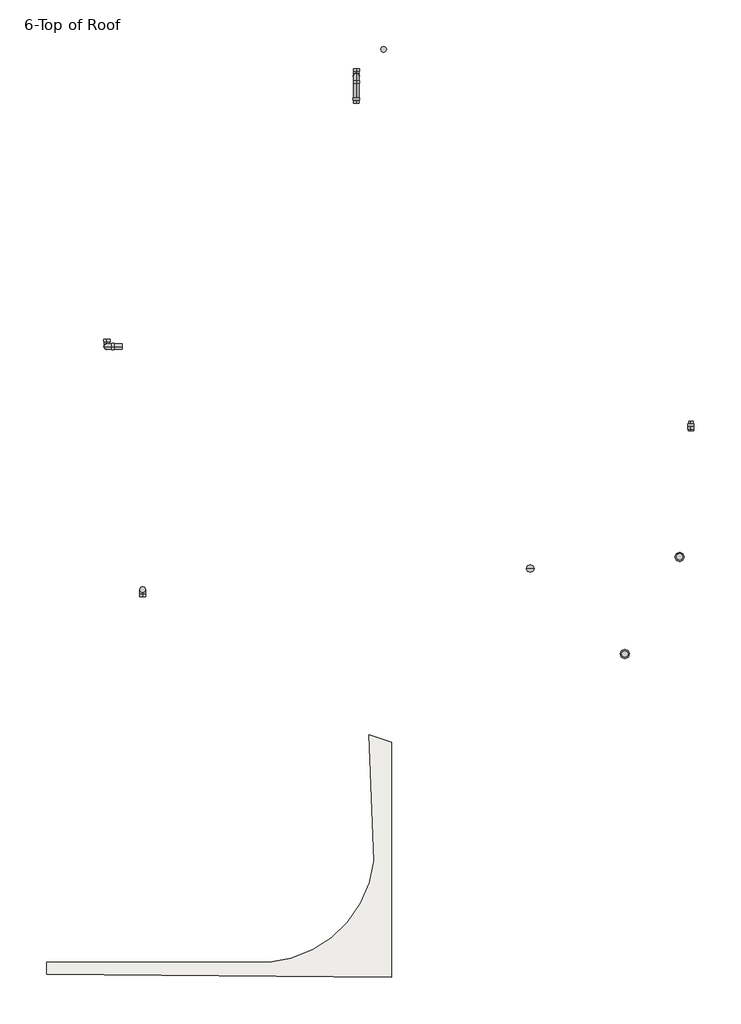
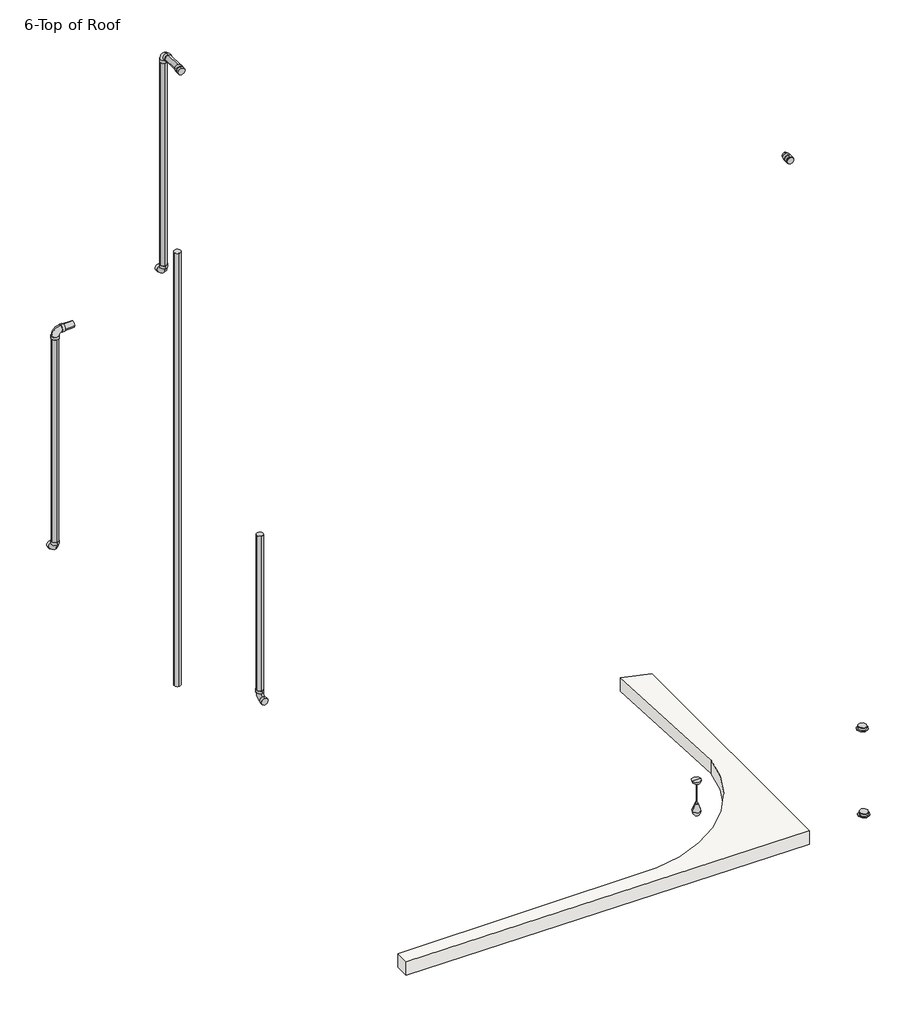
# One storey, incomplete: 8 pipe segments, 7 pipe fittings, 3 light fixtures, 1 roof.
"""IFC4 building model written with IfcOpenShell, lengths in millimetres."""

from ifc_helpers import new_model, si_unit, point, frame, frame_2d, origin, place, context, project, spatial, polyline, circle_curve, trimmed, segment, composite_curve, outline, extrude, transform, mapped, element, save
from components import m_pendant_lamp_art_glass_led_standard_2036dae1, m_recessed_lamp_round_led_e6f06c98, m_bend_pvc_sch_40_dwv_standard_a4b99d37, m_bend_pvc_sch_40_dwv_standard_db402317, m_reducer_pvc_sch_40_dwv_standard_d3fc8f65, m_reducer_pvc_sch_40_dwv_standard_4f19a4ed

model = new_model("IFC4")

# Units and contexts
model_context = context("Model", 3, world=origin())
ifc_project = project(units=[si_unit("LENGTHUNIT", "METRE", prefix="MILLI")], contexts=[model_context])

# Site, building, storey
site = spatial("IfcSite", under=ifc_project)
building = spatial("IfcBuilding", under=site)
storey = spatial("IfcBuildingStorey", under=building, Name="6-Top of Roof", Elevation=14300.0)

# Light fixtures
placement = place(None, origin())
m_pendant_lamp_art_glass_led_standard_shape = m_pendant_lamp_art_glass_led_standard_2036dae1(model_context)
element("IfcLightFixture", 1, ObjectType="M_Pendant Lamp - Art Glass - LED : Standard", at=placement, inside=storey, context=model_context, shape_type="MappedRepresentation", body=[
    mapped(m_pendant_lamp_art_glass_led_standard_shape, transform((1633.8018139, 852.1648594, 6300.0), x_axis=(1.0, 0.0, 0.0), y_axis=(0.0, -1.0, 0.0), z_axis=(0.0, 0.0, -1.0))),
])
m_recessed_lamp_round_led_shape = m_recessed_lamp_round_led_e6f06c98(model_context)
element("IfcLightFixture", 2, ObjectType="M_Recessed Lamp - Round - LED : 100mm Trimless Downlight", at=placement, inside=storey, context=model_context, shape_type="MappedRepresentation", body=[
    mapped(m_recessed_lamp_round_led_shape, transform((3153.0341397, -522.2159647, 6100.0), x_axis=(1.0, 0.0, 0.0), y_axis=(0.0, -1.0, 0.0), z_axis=(0.0, 0.0, -1.0))),
])
element("IfcLightFixture", 3, ObjectType="M_Recessed Lamp - Round - LED : 100mm Trimless Downlight", at=placement, inside=storey, context=model_context, shape_type="MappedRepresentation", body=[
    mapped(m_recessed_lamp_round_led_shape, transform((4035.5234079, 1040.5786683, 6100.0), x_axis=(1.0, 0.0, 0.0), y_axis=(0.0, -1.0, 0.0), z_axis=(0.0, 0.0, -1.0))),
])

# Pipe fittings
m_bend_pvc_sch_40_dwv_standard_shape = m_bend_pvc_sch_40_dwv_standard_a4b99d37(model_context)
element("IfcPipeFitting", 4, ObjectType="M_Bend - PVC - Sch 40 - DWV : Standard", at=placement, inside=storey, context=model_context, shape_type="MappedRepresentation", body=[
    mapped(m_bend_pvc_sch_40_dwv_standard_shape, transform((-5186.0811058, 4422.1774215, 13100.0), x_axis=(-1.0, 0.0, 0.0), y_axis=(0.0, 0.0, -1.0), z_axis=(0.0, -1.0, 0.0))),
])
element("IfcPipeFitting", 5, ObjectType="M_Bend - PVC - Sch 40 - DWV : Standard", at=placement, inside=storey, context=model_context, shape_type="MappedRepresentation", body=[
    mapped(m_bend_pvc_sch_40_dwv_standard_shape, transform((-4608.9689366, 512.3301512, 9903.4220341), x_axis=(0.0, 0.0, -1.0), y_axis=(0.0, -1.0, 0.0), z_axis=(-1.0, 0.0, 0.0))),
])
element("IfcPipeFitting", 6, ObjectType="M_Bend - PVC - Sch 40 - DWV : Standard", at=placement, inside=storey, context=model_context, shape_type="MappedRepresentation", body=[
    mapped(m_bend_pvc_sch_40_dwv_standard_shape, transform((-5186.0805492, 4422.1773789, 9903.4212629), x_axis=(0.0, 0.0, -1.0), y_axis=(0.0, 1.0, 0.0), z_axis=(1.0, 0.0, 0.0))),
])
element("IfcPipeFitting", 7, ObjectType="M_Bend - PVC - Sch 40 - DWV : Standard", at=placement, inside=storey, context=model_context, shape_type="MappedRepresentation", body=[
    mapped(m_bend_pvc_sch_40_dwv_standard_shape, transform((-1169.7257209, 8776.6620874, 13100.0), x_axis=(0.0, 1.0, 0.0), y_axis=(0.0, 0.0, -1.0), z_axis=(-1.0, 0.0, 0.0))),
])
m_bend_pvc_sch_40_dwv_standard_2_shape = m_bend_pvc_sch_40_dwv_standard_db402317(model_context)
element("IfcPipeFitting", 8, ObjectType="M_Bend - PVC - Sch 40 - DWV : Standard", at=placement, inside=storey, context=model_context, shape_type="MappedRepresentation", body=[
    mapped(m_bend_pvc_sch_40_dwv_standard_2_shape, transform((-1169.725083, 8776.6610226, 9903.3990198), x_axis=(0.0, 0.0, -1.0), y_axis=(0.0, 1.0, 0.0), z_axis=(1.0, 0.0, 0.0))),
])
m_reducer_pvc_sch_40_dwv_standard_shape = m_reducer_pvc_sch_40_dwv_standard_d3fc8f65(model_context)
element("IfcPipeFitting", 9, ObjectType="M_Reducer - PVC - Sch 40 - DWV : Standard", at=placement, inside=storey, context=model_context, shape_type="MappedRepresentation", body=[
    mapped(m_reducer_pvc_sch_40_dwv_standard_shape, transform((4216.8403015, 3177.0487618, 13100.0), x_axis=(0.0, -1.0, 0.0), y_axis=(1.0, 0.0, 0.0), z_axis=(0.0, 0.0, 1.0))),
])
m_reducer_pvc_sch_40_dwv_standard_2_shape = m_reducer_pvc_sch_40_dwv_standard_4f19a4ed(model_context)
element("IfcPipeFitting", 10, ObjectType="M_Reducer - PVC - Sch 40 - DWV : Standard", at=placement, inside=storey, context=model_context, shape_type="MappedRepresentation", body=[
    mapped(m_reducer_pvc_sch_40_dwv_standard_2_shape, transform((-1169.7257209, 8424.5390533, 13100.0), x_axis=(0.0, -1.0, 0.0), y_axis=(1.0, 0.0, 0.0), z_axis=(0.0, 0.0, 1.0))),
])

# Pipe segments
element("IfcPipeSegment", 11, ObjectType="PVC - DWV", at=placement, inside=storey, context=model_context, shape_type="SweptSolid", body=[
    extrude(outline(composite_curve([segment(trimmed(circle_curve(frame_2d((13100.0, 4217.6818376)), 44.45), [point((13100.0, 4173.2318376))], [point((13055.55, 4217.6818376))], False, "CARTESIAN"), True, "CONTINUOUS"), segment(trimmed(circle_curve(frame_2d((13100.0, 4217.6818376)), 44.45), [point((13055.55, 4217.6818376))], [point((13100.0, 4262.1318376))], False, "CARTESIAN"), True, "CONTINUOUS"), segment(trimmed(circle_curve(frame_2d((13100.0, 4217.6818376)), 44.45), [point((13100.0, 4262.1318376))], [point((13144.45, 4217.6818376))], False, "CARTESIAN"), True, "CONTINUOUS"), segment(trimmed(circle_curve(frame_2d((13100.0, 4217.6818376)), 44.45), [point((13144.45, 4217.6818376))], [point((13100.0, 4173.2318376))], False, "CARTESIAN"), True, "CONTINUOUS")], self_intersect=False)), frame((0.0, 3071.7397044, 0.0), z_axis=(0.0, 1.0, 0.0), x_axis=(0.0, 0.0, 1.0)), (0.0, 0.0, 1.0), 19.0629636),
])
element("IfcPipeSegment", 12, ObjectType="PVC - DWV", at=placement, inside=storey, context=model_context, shape_type="SweptSolid", body=[
    extrude(outline(composite_curve([segment(trimmed(circle_curve(frame_2d((13100.0, 4216.8403015)), 37.5), [point((13100.0, 4179.3403015))], [point((13062.5, 4216.8403015))], False, "CARTESIAN"), True, "CONTINUOUS"), segment(trimmed(circle_curve(frame_2d((13100.0, 4216.8403015)), 37.5), [point((13062.5, 4216.8403015))], [point((13100.0, 4254.3403015))], False, "CARTESIAN"), True, "CONTINUOUS"), segment(trimmed(circle_curve(frame_2d((13100.0, 4216.8403015)), 37.5), [point((13100.0, 4254.3403015))], [point((13137.5, 4216.8403015))], False, "CARTESIAN"), True, "CONTINUOUS"), segment(trimmed(circle_curve(frame_2d((13100.0, 4216.8403015)), 37.5), [point((13137.5, 4216.8403015))], [point((13100.0, 4179.3403015))], False, "CARTESIAN"), True, "CONTINUOUS")], self_intersect=False)), frame((0.0, 3177.0487618, 0.0), z_axis=(0.0, 1.0, 0.0), x_axis=(0.0, 0.0, 1.0)), (0.0, 0.0, 1.0), 42.0460962),
])
element("IfcPipeSegment", 13, ObjectType="PVC - DWV", at=placement, inside=storey, context=model_context, shape_type="SweptSolid", body=[
    extrude(outline(composite_curve([segment(trimmed(circle_curve(frame_2d((4422.1774215, 13100.0)), 44.45), [point((4466.6274215, 13100.0))], [point((4422.1774215, 13055.55))], False, "CARTESIAN"), True, "CONTINUOUS"), segment(trimmed(circle_curve(frame_2d((4422.1774215, 13100.0)), 44.45), [point((4422.1774215, 13055.55))], [point((4377.7274215, 13100.0))], False, "CARTESIAN"), True, "CONTINUOUS"), segment(trimmed(circle_curve(frame_2d((4422.1774215, 13100.0)), 44.45), [point((4377.7274215, 13100.0))], [point((4422.1774215, 13144.45))], False, "CARTESIAN"), True, "CONTINUOUS"), segment(trimmed(circle_curve(frame_2d((4422.1774215, 13100.0)), 44.45), [point((4422.1774215, 13144.45))], [point((4466.6274215, 13100.0))], False, "CARTESIAN"), True, "CONTINUOUS")], self_intersect=False)), frame((-5070.1809058, 0.0, 0.0), z_axis=(1.0, 0.0, 0.0), x_axis=(0.0, 1.0, 0.0)), (0.0, 0.0, 1.0), 132.7043137),
])
element("IfcPipeSegment", 14, ObjectType="PVC - DWV", at=placement, inside=storey, context=model_context, shape_type="SweptSolid", body=[
    extrude(outline(composite_curve([segment(trimmed(circle_curve(frame_2d((-4608.9689366, 512.3301512)), 44.45), [point((-4653.4189366, 512.3301512))], [point((-4608.9689366, 556.7801512))], False, "CARTESIAN"), True, "CONTINUOUS"), segment(trimmed(circle_curve(frame_2d((-4608.9689366, 512.3301512)), 44.45), [point((-4608.9689366, 556.7801512))], [point((-4564.5189366, 512.3301512))], False, "CARTESIAN"), True, "CONTINUOUS"), segment(trimmed(circle_curve(frame_2d((-4608.9689366, 512.3301512)), 44.45), [point((-4564.5189366, 512.3301512))], [point((-4608.9689366, 467.8801512))], False, "CARTESIAN"), True, "CONTINUOUS"), segment(trimmed(circle_curve(frame_2d((-4608.9689366, 512.3301512)), 44.45), [point((-4608.9689366, 467.8801512))], [point((-4653.4189366, 512.3301512))], False, "CARTESIAN"), True, "CONTINUOUS")], self_intersect=False)), frame((0.0, 0.0, 10019.3222341), z_axis=(0.0, 0.0, 1.0), x_axis=(1.0, 0.0, 0.0)), (0.0, 0.0, 1.0), 2260.6777659),
])
element("IfcPipeSegment", 15, ObjectType="PVC - DWV", at=placement, inside=storey, context=model_context, shape_type="SweptSolid", body=[
    extrude(outline(composite_curve([segment(trimmed(circle_curve(frame_2d((0.0, -44.45)), 44.45), [point((-44.45, -44.45))], [point((0.0, 0.0))], False, "CARTESIAN"), True, "CONTINUOUS"), segment(trimmed(circle_curve(frame_2d((0.0, -44.45)), 44.45), [point((0.0, 0.0))], [point((44.45, -44.45))], False, "CARTESIAN"), True, "CONTINUOUS"), segment(trimmed(circle_curve(frame_2d((0.0, -44.45)), 44.45), [point((44.45, -44.45))], [point((0.0, -88.9))], False, "CARTESIAN"), True, "CONTINUOUS"), segment(trimmed(circle_curve(frame_2d((0.0, -44.45)), 44.45), [point((0.0, -88.9))], [point((-44.45, -44.45))], False, "CARTESIAN"), True, "CONTINUOUS")], self_intersect=False)), frame((-5186.0805492, 4377.7273789, 10019.3214635), z_axis=(-1.8773332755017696e-07, 1.4391559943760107e-08, 0.9999999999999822), x_axis=(-0.9999999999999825, 0.0, -1.8773332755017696e-07)), (0.0, 0.0, 1.0), 2964.7783371),
])
element("IfcPipeSegment", 16, ObjectType="PVC - DWV", at=placement, inside=storey, context=model_context, shape_type="SweptSolid", body=[
    extrude(outline(composite_curve([segment(trimmed(circle_curve(frame_2d((0.0, 44.45)), 44.45), [point((-44.45, 44.45))], [point((0.0, 88.9))], False, "CARTESIAN"), True, "CONTINUOUS"), segment(trimmed(circle_curve(frame_2d((0.0, 44.45)), 44.45), [point((0.0, 88.9))], [point((44.45, 44.45))], False, "CARTESIAN"), True, "CONTINUOUS"), segment(trimmed(circle_curve(frame_2d((0.0, 44.45)), 44.45), [point((44.45, 44.45))], [point((0.0, 0.0))], False, "CARTESIAN"), True, "CONTINUOUS"), segment(trimmed(circle_curve(frame_2d((0.0, 44.45)), 44.45), [point((0.0, 0.0))], [point((-44.45, 44.45))], False, "CARTESIAN"), True, "CONTINUOUS")], self_intersect=False)), frame((-730.3206324, 9160.9542683, 3455.9001985), z_axis=(1.0074100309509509e-07, -3.383900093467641e-08, 0.9999999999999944), x_axis=(0.999999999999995, 0.0, -1.0074100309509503e-07)), (0.0, 0.0, 1.0), 6331.5990005),
])
element("IfcPipeSegment", 17, ObjectType="PVC - DWV", at=placement, inside=storey, context=model_context, shape_type="SweptSolid", body=[
    extrude(outline(composite_curve([segment(trimmed(circle_curve(frame_2d((13100.0, -1169.7257209)), 44.45), [point((13100.0, -1214.1757209))], [point((13055.55, -1169.7257209))], False, "CARTESIAN"), True, "CONTINUOUS"), segment(trimmed(circle_curve(frame_2d((13100.0, -1169.7257209)), 44.45), [point((13055.55, -1169.7257209))], [point((13100.0, -1125.2757209))], False, "CARTESIAN"), True, "CONTINUOUS"), segment(trimmed(circle_curve(frame_2d((13100.0, -1169.7257209)), 44.45), [point((13100.0, -1125.2757209))], [point((13144.45, -1169.7257209))], False, "CARTESIAN"), True, "CONTINUOUS"), segment(trimmed(circle_curve(frame_2d((13100.0, -1169.7257209)), 44.45), [point((13144.45, -1169.7257209))], [point((13100.0, -1214.1757209))], False, "CARTESIAN"), True, "CONTINUOUS")], self_intersect=False)), frame((0.0, 8424.5390533, 0.0), z_axis=(0.0, 1.0, 0.0), x_axis=(0.0, 0.0, 1.0)), (0.0, 0.0, 1.0), 236.222834),
])
element("IfcPipeSegment", 18, ObjectType="PVC - DWV", at=placement, inside=storey, context=model_context, shape_type="SweptSolid", body=[
    extrude(outline(composite_curve([segment(trimmed(circle_curve(frame_2d((0.0, -44.45)), 44.45), [point((-44.45, -44.45))], [point((0.0, 0.0))], False, "CARTESIAN"), True, "CONTINUOUS"), segment(trimmed(circle_curve(frame_2d((0.0, -44.45)), 44.45), [point((0.0, 0.0))], [point((44.45, -44.45))], False, "CARTESIAN"), True, "CONTINUOUS"), segment(trimmed(circle_curve(frame_2d((0.0, -44.45)), 44.45), [point((44.45, -44.45))], [point((0.0, -88.9))], False, "CARTESIAN"), True, "CONTINUOUS"), segment(trimmed(circle_curve(frame_2d((0.0, -44.45)), 44.45), [point((0.0, -88.9))], [point((-44.45, -44.45))], False, "CARTESIAN"), True, "CONTINUOUS")], self_intersect=False)), frame((-1169.725083, 8732.2110226, 10019.2992358), z_axis=(-2.1514148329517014e-07, 3.591405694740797e-07, 0.9999999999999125), x_axis=(-0.9999999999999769, 0.0, -2.1514148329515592e-07)), (0.0, 0.0, 1.0), 2964.8005802),
])

# Roof
element("IfcRoof", 19, ObjectType="Generic - 200mm", at=placement, inside=storey, context=model_context, shape_type="SweptSolid", body=[
    extrude(outline(composite_curve([segment(trimmed(circle_curve(frame_2d((700.1881312, 2596.9293626)), 4721.7339939), [point((-962.9981584, -1822.1863041))], [point((-602.0211051, -1941.6852955))], True, "CARTESIAN"), True, "CONTINUOUS"), segment(polyline([(-602.0211051, -1941.6852955), (-602.0211051, -5726.8704857), (-6156.8235232, -5676.5472282), (-6156.8235232, -5479.8876439), (-2574.7606331, -5479.8876439)]), True, "CONTINUOUS"), segment(trimmed(circle_curve(frame_2d((-2715.5435706, -3640.3557194)), 1844.9112545), [point((-2574.7606331, -5479.8876439))], [point((-882.1536167, -3846.2168714))], True, "CARTESIAN"), True, "CONTINUOUS"), segment(polyline([(-882.1536167, -3846.2168714), (-962.9981584, -1822.1863041)]), True, "CONTINUOUS")], self_intersect=False)), frame((0.0, 0.0, 10125.0), z_axis=(0.0, 0.0, 1.0), x_axis=(1.0, 0.0, 0.0)), (0.0, 0.0, 1.0), 200.0),
])

save(model, "model.ifc")
